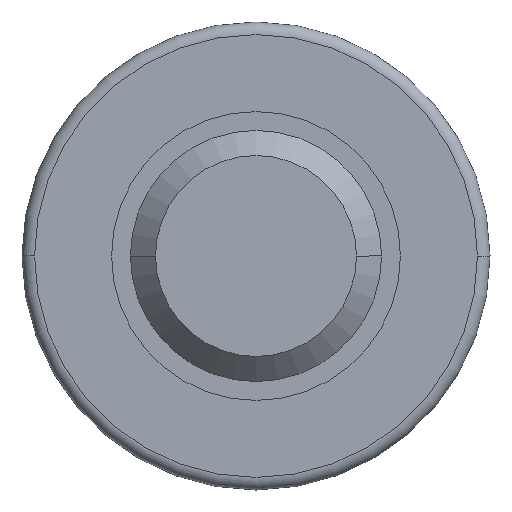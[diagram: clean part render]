
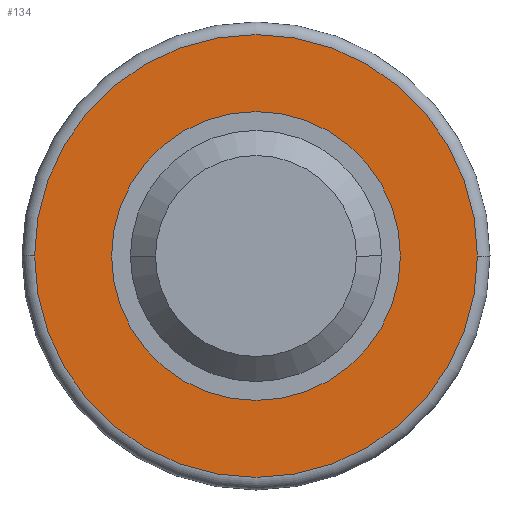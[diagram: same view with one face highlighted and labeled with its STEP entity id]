
A CAD part, left-side view. The second image highlights one B-rep face of the part: STEP entity #134.
In plain terms, the highlighted planar face has unit normal (-1, 0, 0).
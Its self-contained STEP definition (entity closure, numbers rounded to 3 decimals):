
#6 = ORIENTED_EDGE ( 'NONE', *, *, #553, .F. ) ;
#47 = VERTEX_POINT ( 'NONE', #686 ) ;
#57 = DIRECTION ( 'NONE',  ( 0., -1., 0. ) ) ;
#60 = DIRECTION ( 'NONE',  ( -1., 0., 0. ) ) ;
#73 = AXIS2_PLACEMENT_3D ( 'NONE', #462, #60, #645 ) ;
#108 = CIRCLE ( 'NONE', #561, 34.5 ) ;
#113 = CARTESIAN_POINT ( 'NONE',  ( 34., -34.5, 0. ) ) ;
#134 = ADVANCED_FACE ( 'NONE', ( #387, #243 ), #489, .T. ) ;
#149 = CARTESIAN_POINT ( 'NONE',  ( 34., 34.5, 0. ) ) ;
#172 = ORIENTED_EDGE ( 'NONE', *, *, #437, .T. ) ;
#174 = AXIS2_PLACEMENT_3D ( 'NONE', #401, #430, #57 ) ;
#194 = ORIENTED_EDGE ( 'NONE', *, *, #289, .T. ) ;
#211 = VERTEX_POINT ( 'NONE', #149 ) ;
#213 = DIRECTION ( 'NONE',  ( -1., 0., 0. ) ) ;
#236 = DIRECTION ( 'NONE',  ( -1., 0., 0. ) ) ;
#243 = FACE_BOUND ( 'NONE', #434, .T. ) ;
#250 = CARTESIAN_POINT ( 'NONE',  ( 34., 0., 0. ) ) ;
#269 = AXIS2_PLACEMENT_3D ( 'NONE', #250, #236, #607 ) ;
#278 = DIRECTION ( 'NONE',  ( -1., 0., 0. ) ) ;
#289 = EDGE_CURVE ( 'NONE', #648, #47, #624, .T. ) ;
#311 = VERTEX_POINT ( 'NONE', #113 ) ;
#331 = EDGE_CURVE ( 'NONE', #311, #211, #450, .T. ) ;
#334 = AXIS2_PLACEMENT_3D ( 'NONE', #539, #278, #479 ) ;
#385 = EDGE_LOOP ( 'NONE', ( #172, #194 ) ) ;
#387 = FACE_OUTER_BOUND ( 'NONE', #385, .T. ) ;
#401 = CARTESIAN_POINT ( 'NONE',  ( 34., 0., 0. ) ) ;
#409 = CARTESIAN_POINT ( 'NONE',  ( 34., 52.9, 0. ) ) ;
#430 = DIRECTION ( 'NONE',  ( -1., 0., 0. ) ) ;
#434 = EDGE_LOOP ( 'NONE', ( #497, #6 ) ) ;
#437 = EDGE_CURVE ( 'NONE', #47, #648, #469, .T. ) ;
#450 = CIRCLE ( 'NONE', #334, 34.5 ) ;
#462 = CARTESIAN_POINT ( 'NONE',  ( 34., 53.85, 0. ) ) ;
#469 = CIRCLE ( 'NONE', #174, 52.9 ) ;
#479 = DIRECTION ( 'NONE',  ( 0., -1., 0. ) ) ;
#489 = PLANE ( 'NONE',  #73 ) ;
#497 = ORIENTED_EDGE ( 'NONE', *, *, #331, .F. ) ;
#534 = DIRECTION ( 'NONE',  ( 0., -1., 0. ) ) ;
#539 = CARTESIAN_POINT ( 'NONE',  ( 34., 0., 0. ) ) ;
#553 = EDGE_CURVE ( 'NONE', #211, #311, #108, .T. ) ;
#561 = AXIS2_PLACEMENT_3D ( 'NONE', #582, #213, #534 ) ;
#582 = CARTESIAN_POINT ( 'NONE',  ( 34., 0., 0. ) ) ;
#607 = DIRECTION ( 'NONE',  ( 0., -1., 0. ) ) ;
#624 = CIRCLE ( 'NONE', #269, 52.9 ) ;
#645 = DIRECTION ( 'NONE',  ( 0., -1., 0. ) ) ;
#648 = VERTEX_POINT ( 'NONE', #409 ) ;
#686 = CARTESIAN_POINT ( 'NONE',  ( 34., -52.9, 0. ) ) ;
